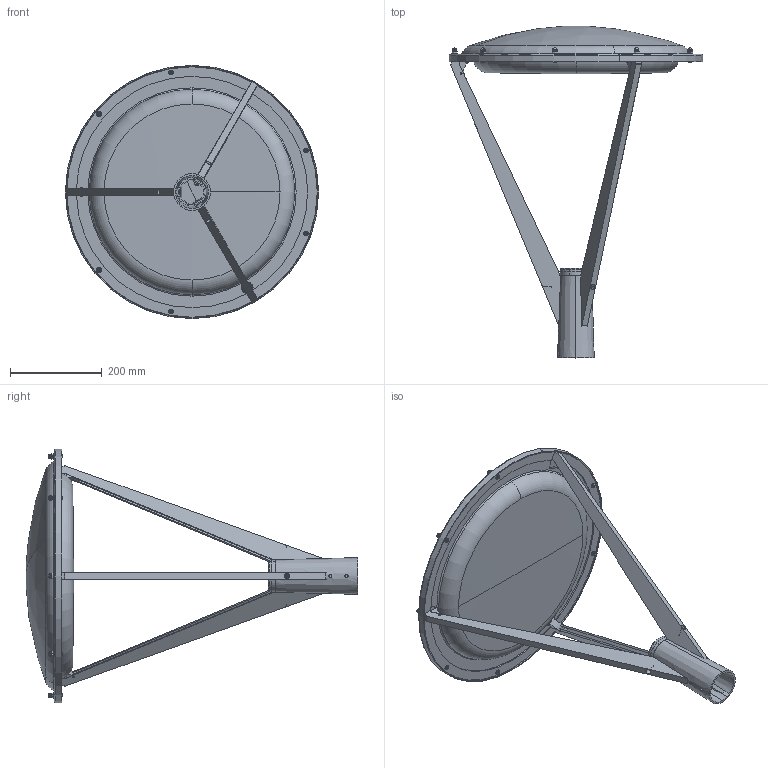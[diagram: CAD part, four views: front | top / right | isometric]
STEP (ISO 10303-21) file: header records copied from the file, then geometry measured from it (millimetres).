
FILE_DESCRIPTION (( 'STEP AP203' ), '1' );
FILE_NAME ('Hammerfest.STEP', '2020-03-31T11:58:46', ( '' ), ( '' ), 'SwSTEP 2.0', 'SolidWorks 2019', '' );
FILE_SCHEMA (( 'CONFIG_CONTROL_DESIGN' ));
Length unit declared in the file: millimetre
Products named in the file (16): domed cap nut_din_DIN 1587 - M6 --NNU; odblysnik AVE-161-2-07_M156 Klosz W3; zaslepka AVE-161-2-14; M94_ASKER_USZCZELKA W1 PRZEWODU_rs_w05; M142_Nicea led_Talerz_rs_M156W3; Wkrêt walc imb_M6x_rs_ISO 7380 - M6 x 20 - 10N; socket set screw cone point_din_DIN 914 - M6 x 16-N; Hammerfest; GNIAZ_M6x_M6x30; tuleja AVE-161-2-01; ramie AVE-161-2-02_xxxM156_obr｢bka; M156_Zaœlepka_rs; POD 6,4_rs_Materiaˆ ABS; M156_Docisk_rs_W3; Wkr docisk b 豚a M4x_rs_M4 x 06; M142_Talerz kpl_rs_xxxM156
Assembly tree (48 placements, depth 3):
  Hammerfest
    M142_Talerz kpl_rs_xxxM156
      M142_Nicea led_Talerz_rs_M156W3
    tuleja AVE-161-2-01
    ramie AVE-161-2-02_xxxM156_obr｢bka  x3
    zaslepka AVE-161-2-14  x3
    odblysnik AVE-161-2-07_M156 Klosz W3
    GNIAZ_M6x_M6x30  x3
    Wkr docisk b 豚a M4x_rs_M4 x 06  x3
    POD 6,4_rs_Materiaˆ ABS  x9
    socket set screw cone point_din_DIN 914 - M6 x 16-N  x3
    domed cap nut_din_DIN 1587 - M6 --NNU  x9
    M156_Zaœlepka_rs
    M94_ASKER_USZCZELKA W1 PRZEWODU_rs_w05
    M156_Docisk_rs_W3  x3
    Wkrêt walc imb_M6x_rs_ISO 7380 - M6 x 20 - 10N  x6
Bounding box: 552 x 723.5 x 552 mm (x, y, z)
Volume: 2215938.4 mm3; surface area: 1555810.1 mm2
Topology: 47 solids, 47 shells, 1487 faces, 3592 edges, 2227 vertices
Faces by surface type: plane 690, cylinder 289, cone 262, torus 110, bspline 94, sphere 42
Entity records: 28764 total; most frequent: CARTESIAN_POINT 9404, ORIENTED_EDGE 3568, DIRECTION 3312, EDGE_CURVE 1784, AXIS2_PLACEMENT_3D 1186, VERTEX_POINT 1144, LINE 940, VECTOR 940
